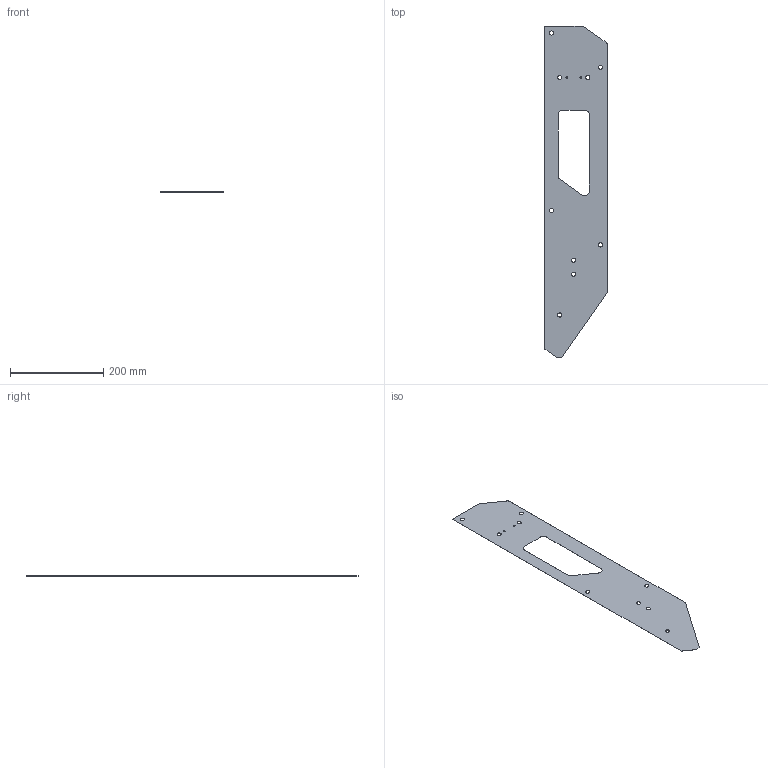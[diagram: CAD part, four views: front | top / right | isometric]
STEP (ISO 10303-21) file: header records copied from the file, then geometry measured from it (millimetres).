
FILE_DESCRIPTION(/* description */ ('FEUILLE MYLAR POUR SUPPORT BOITIER','CAx-IF Rec.Pracs.---Representation and Presentation of Product Manufacturing Information (PMI)---4.0---2014-10-13'),/* implementation_level */ '2;1');
FILE_NAME(/* name */ 'vv810012-A.stp',/* time_stamp */ '2025-09-29T10:10:36+02:00',/* author */ ('ALOCQUE'),/* organization */ (''),/* preprocessor_version */ 'ST-DEVELOPER v20',/* originating_system */ 'Autodesk Inventor 2025',/* authorisation */ '');
FILE_SCHEMA (('AP242_MANAGED_MODEL_BASED_3D_ENGINEERING_MIM_LF { 1 0 10303 442 1 1 4 }'));
Length unit declared in the file: millimetre
Products named in the file (1): VICTOR.V.81.00.12
Bounding box: 133 x 710.5 x 0.25 mm (x, y, z)
Volume: 18698.1 mm3; surface area: 150164.8 mm2
Topology: 1 solids, 1 shells, 31 faces, 87 edges, 58 vertices
Faces by surface type: cylinder 18, plane 13
Full cylindrical faces by diameter (mm): 3.4 x2, 9 x9
Entity records: 1330 total; most frequent: CARTESIAN_POINT 240, DIRECTION 231, ORIENTED_EDGE 174, AXIS2_PLACEMENT_3D 90, EDGE_CURVE 87, VERTEX_POINT 58, EDGE_LOOP 55, CIRCLE 54
